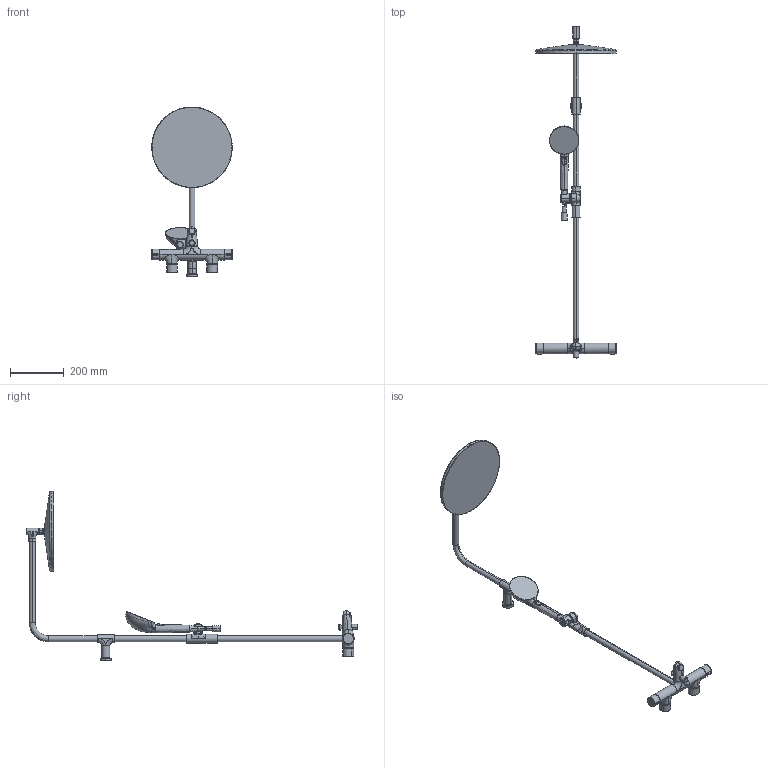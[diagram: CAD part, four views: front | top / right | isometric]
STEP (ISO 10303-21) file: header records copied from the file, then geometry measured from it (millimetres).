
FILE_DESCRIPTION (( 'STEP AP203' ), '1' );
FILE_NAME ('4793(2024).STEP', '2024-04-09T06:24:35', ( '' ), ( '' ), 'SwSTEP 2.0', 'SolidWorks 2016', '' );
FILE_SCHEMA (( 'CONFIG_CONTROL_DESIGN' ));
Length unit declared in the file: millimetre
Products named in the file (1): 4793(2024)
Bounding box: 300 x 1236.09 x 633 mm (x, y, z)
Volume: 3524519.9 mm3; surface area: 442442 mm2
Topology: 25 solids, 25 shells, 539 faces, 1310 edges, 813 vertices
Faces by surface type: bspline 299, plane 83, cylinder 75, cone 43, sphere 22, torus 17
Entity records: 51408 total; most frequent: CARTESIAN_POINT 40769, ORIENTED_EDGE 2584, DIRECTION 1708, EDGE_CURVE 1292, VERTEX_POINT 813, AXIS2_PLACEMENT_3D 762, EDGE_LOOP 549, ADVANCED_FACE 539
